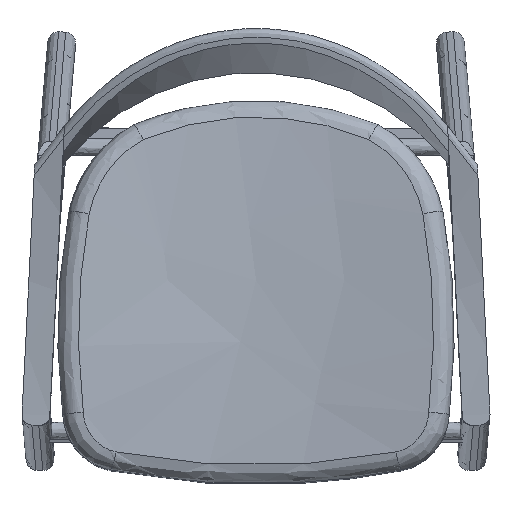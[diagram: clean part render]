
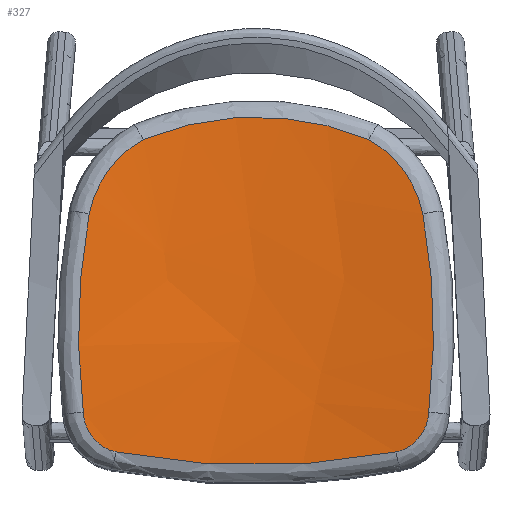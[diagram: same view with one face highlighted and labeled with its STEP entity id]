
A CAD part, top view. The second image highlights one B-rep face of the part: STEP entity #327.
In plain terms, the highlighted free-form (B-spline) face has degree [1, 2] with [2, 3] control points.
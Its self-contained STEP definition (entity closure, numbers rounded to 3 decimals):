
#130=(
BOUNDED_SURFACE()
B_SPLINE_SURFACE(1,2,((#6884,#6885,#6886),(#6887,#6888,#6889)),
 .UNSPECIFIED.,.F.,.F.,.F.)
B_SPLINE_SURFACE_WITH_KNOTS((2,2),(3,3),(-0.039,0.326),
(1.379,1.763),.UNSPECIFIED.)
GEOMETRIC_REPRESENTATION_ITEM()
RATIONAL_B_SPLINE_SURFACE(((1.,0.982,1.),(1.,0.982,
1.)))
REPRESENTATION_ITEM('')
SURFACE()
);
#327=ADVANCED_FACE('',(#503),#130,.T.);
#503=FACE_OUTER_BOUND('',#679,.T.);
#679=EDGE_LOOP('',(#1557,#1558,#1559,#1560,#1561,#1562,#1563,#1564));
#1557=ORIENTED_EDGE('',*,*,#2104,.F.);
#1558=ORIENTED_EDGE('',*,*,#2078,.F.);
#1559=ORIENTED_EDGE('',*,*,#2083,.F.);
#1560=ORIENTED_EDGE('',*,*,#2087,.F.);
#1561=ORIENTED_EDGE('',*,*,#2089,.F.);
#1562=ORIENTED_EDGE('',*,*,#2091,.F.);
#1563=ORIENTED_EDGE('',*,*,#2095,.F.);
#1564=ORIENTED_EDGE('',*,*,#2097,.F.);
#2078=EDGE_CURVE('',#2873,#2872,#2368,.T.);
#2083=EDGE_CURVE('',#2874,#2873,#2373,.T.);
#2087=EDGE_CURVE('',#2875,#2874,#2377,.T.);
#2089=EDGE_CURVE('',#2876,#2875,#2379,.T.);
#2091=EDGE_CURVE('',#2877,#2876,#2381,.T.);
#2095=EDGE_CURVE('',#2878,#2877,#2385,.T.);
#2097=EDGE_CURVE('',#2871,#2878,#2387,.T.);
#2104=EDGE_CURVE('',#2872,#2871,#2394,.T.);
#2368=B_SPLINE_CURVE_WITH_KNOTS('',3,(#7525,#7526,#7527,#7528,#7529,#7530),
 .UNSPECIFIED.,.F.,.F.,(4,1,1,4),(10.166,19.617,29.092,
43.28),.UNSPECIFIED.);
#2373=B_SPLINE_CURVE_WITH_KNOTS('',3,(#7670,#7671,#7672,#7673,#7674,#7675,
#7676),.UNSPECIFIED.,.F.,.F.,(4,1,1,1,4),(-33.698,-31.849,
-29.999,-29.075,-27.245),.UNSPECIFIED.);
#2377=B_SPLINE_CURVE_WITH_KNOTS('',3,(#7690,#7691,#7692,#7693,#7694),
 .UNSPECIFIED.,.F.,.F.,(4,1,4),(-33.437,-20.318,-10.462),
 .UNSPECIFIED.);
#2379=B_SPLINE_CURVE_WITH_KNOTS('',3,(#7702,#7703,#7704,#7705,#7706,#7707,
#7708),.UNSPECIFIED.,.F.,.F.,(4,1,1,1,4),(-86.909,-83.816,
-80.617,-77.419,-75.84),.UNSPECIFIED.);
#2381=B_SPLINE_CURVE_WITH_KNOTS('',3,(#7775,#7776,#7777,#7778,#7779,#7780,
#7781),.UNSPECIFIED.,.F.,.F.,(4,1,1,1,4),(-43.411,-35.677,
-27.833,-23.911,-16.178),.UNSPECIFIED.);
#2385=B_SPLINE_CURVE_WITH_KNOTS('',3,(#7917,#7918,#7919,#7920,#7921,#7922),
 .UNSPECIFIED.,.F.,.F.,(4,1,1,4),(-86.962,-83.784,-80.586,
-75.894),.UNSPECIFIED.);
#2387=B_SPLINE_CURVE_WITH_KNOTS('',3,(#7929,#7930,#7931,#7932,#7933),
 .UNSPECIFIED.,.F.,.F.,(4,1,4),(-39.137,-29.281,-16.161),
 .UNSPECIFIED.);
#2394=B_SPLINE_CURVE_WITH_KNOTS('',3,(#8097,#8098,#8099,#8100,#8101,#8102,
#8103),.UNSPECIFIED.,.F.,.F.,(4,1,1,1,4),(25.949,27.778,
29.628,31.477,32.402),.UNSPECIFIED.);
#2871=VERTEX_POINT('',#7281);
#2872=VERTEX_POINT('',#7282);
#2873=VERTEX_POINT('',#7283);
#2874=VERTEX_POINT('',#7284);
#2875=VERTEX_POINT('',#7285);
#2876=VERTEX_POINT('',#7286);
#2877=VERTEX_POINT('',#7287);
#2878=VERTEX_POINT('',#7288);
#6884=CARTESIAN_POINT('',(205.174,-220.541,454.618));
#6885=CARTESIAN_POINT('',(0.,-222.666,414.782));
#6886=CARTESIAN_POINT('',(-205.174,-220.541,454.618));
#6887=CARTESIAN_POINT('',(205.174,180.669,433.22));
#6888=CARTESIAN_POINT('',(0.,178.545,393.384));
#6889=CARTESIAN_POINT('',(-205.174,180.669,433.22));
#7281=CARTESIAN_POINT('',(-198.762,-160.25,450.174));
#7282=CARTESIAN_POINT('',(-161.059,-206.04,446.206));
#7283=CARTESIAN_POINT('',(161.059,-206.04,446.206));
#7284=CARTESIAN_POINT('',(198.762,-160.25,450.174));
#7285=CARTESIAN_POINT('',(192.036,68.076,436.752));
#7286=CARTESIAN_POINT('',(129.969,153.7,422.766));
#7287=CARTESIAN_POINT('',(-129.969,153.7,422.766));
#7288=CARTESIAN_POINT('',(-192.036,68.076,436.752));
#7525=CARTESIAN_POINT('',(161.059,-206.04,446.206));
#7526=CARTESIAN_POINT('',(130.97,-211.9,441.952));
#7527=CARTESIAN_POINT('',(69.781,-220.405,435.754));
#7528=CARTESIAN_POINT('',(-38.78,-223.428,433.543));
#7529=CARTESIAN_POINT('',(-115.888,-214.836,439.82));
#7530=CARTESIAN_POINT('',(-161.059,-206.04,446.206));
#7670=CARTESIAN_POINT('',(198.762,-160.25,450.174));
#7671=CARTESIAN_POINT('',(198.532,-166.405,450.459));
#7672=CARTESIAN_POINT('',(195.728,-178.64,450.579));
#7673=CARTESIAN_POINT('',(186.934,-191.49,449.663));
#7674=CARTESIAN_POINT('',(175.228,-201.138,448.171));
#7675=CARTESIAN_POINT('',(166.856,-204.755,447.017));
#7676=CARTESIAN_POINT('',(161.059,-206.04,446.206));
#7690=CARTESIAN_POINT('',(192.036,68.076,436.752));
#7691=CARTESIAN_POINT('',(199.882,25.239,440.463));
#7692=CARTESIAN_POINT('',(207.118,-51.099,445.972));
#7693=CARTESIAN_POINT('',(202.749,-127.664,449.187));
#7694=CARTESIAN_POINT('',(198.762,-160.25,450.174));
#7702=CARTESIAN_POINT('',(129.969,153.7,422.766));
#7703=CARTESIAN_POINT('',(138.743,148.742,424.1));
#7704=CARTESIAN_POINT('',(155.386,136.497,427.009));
#7705=CARTESIAN_POINT('',(175.397,112.41,431.451));
#7706=CARTESIAN_POINT('',(186.848,88.518,434.723));
#7707=CARTESIAN_POINT('',(190.979,73.206,436.286));
#7708=CARTESIAN_POINT('',(192.036,68.076,436.752));
#7775=CARTESIAN_POINT('',(-129.969,153.7,422.766));
#7776=CARTESIAN_POINT('',(-106.739,163.353,419.418));
#7777=CARTESIAN_POINT('',(-57.632,177.612,414.239));
#7778=CARTESIAN_POINT('',(6.518,181.26,412.879));
#7779=CARTESIAN_POINT('',(69.997,174.013,415.552));
#7780=CARTESIAN_POINT('',(106.739,163.353,419.418));
#7781=CARTESIAN_POINT('',(129.969,153.7,422.766));
#7917=CARTESIAN_POINT('',(-192.036,68.076,436.752));
#7918=CARTESIAN_POINT('',(-189.908,78.402,435.814));
#7919=CARTESIAN_POINT('',(-183.118,98.541,433.516));
#7920=CARTESIAN_POINT('',(-163.354,129.398,428.569));
#7921=CARTESIAN_POINT('',(-143.279,146.177,424.791));
#7922=CARTESIAN_POINT('',(-129.969,153.7,422.766));
#7929=CARTESIAN_POINT('',(-198.762,-160.25,450.174));
#7930=CARTESIAN_POINT('',(-202.749,-127.664,449.187));
#7931=CARTESIAN_POINT('',(-207.118,-51.099,445.972));
#7932=CARTESIAN_POINT('',(-199.882,25.239,440.463));
#7933=CARTESIAN_POINT('',(-192.036,68.076,436.752));
#8097=CARTESIAN_POINT('',(-161.059,-206.04,446.206));
#8098=CARTESIAN_POINT('',(-166.856,-204.755,447.017));
#8099=CARTESIAN_POINT('',(-178.043,-199.93,448.559));
#8100=CARTESIAN_POINT('',(-191.164,-186.869,450.173));
#8101=CARTESIAN_POINT('',(-197.438,-172.536,450.58));
#8102=CARTESIAN_POINT('',(-198.647,-163.327,450.316));
#8103=CARTESIAN_POINT('',(-198.762,-160.25,450.174));
